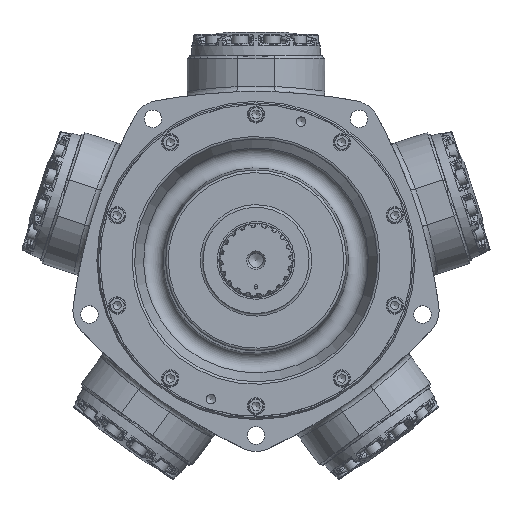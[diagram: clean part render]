
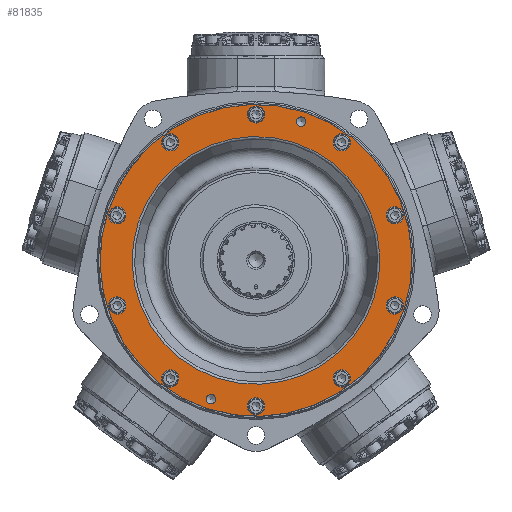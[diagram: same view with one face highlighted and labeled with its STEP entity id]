
A CAD part, top view. The second image highlights one B-rep face of the part: STEP entity #81835.
In plain terms, the highlighted planar face has unit normal (0, 0, 1).
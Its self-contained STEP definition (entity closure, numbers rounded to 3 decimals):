
#8797=FACE_BOUND('',#17384,.T.);
#8798=FACE_BOUND('',#17385,.T.);
#8799=FACE_BOUND('',#17386,.T.);
#8800=FACE_BOUND('',#17387,.T.);
#8801=FACE_BOUND('',#17388,.T.);
#8802=FACE_BOUND('',#17389,.T.);
#8803=FACE_BOUND('',#17390,.T.);
#8804=FACE_BOUND('',#17391,.T.);
#8805=FACE_BOUND('',#17392,.T.);
#8806=FACE_BOUND('',#17393,.T.);
#8807=FACE_BOUND('',#17394,.T.);
#8808=FACE_BOUND('',#17395,.T.);
#8809=FACE_BOUND('',#17396,.T.);
#12290=FACE_OUTER_BOUND('',#17383,.T.);
#17383=EDGE_LOOP('',(#64497));
#17384=EDGE_LOOP('',(#64498));
#17385=EDGE_LOOP('',(#64499));
#17386=EDGE_LOOP('',(#64500));
#17387=EDGE_LOOP('',(#64501));
#17388=EDGE_LOOP('',(#64502));
#17389=EDGE_LOOP('',(#64503));
#17390=EDGE_LOOP('',(#64504));
#17391=EDGE_LOOP('',(#64505));
#17392=EDGE_LOOP('',(#64506));
#17393=EDGE_LOOP('',(#64507));
#17394=EDGE_LOOP('',(#64508));
#17395=EDGE_LOOP('',(#64509));
#17396=EDGE_LOOP('',(#64510));
#21467=CIRCLE('',#88053,186.628);
#21469=CIRCLE('',#88057,5.664);
#21470=CIRCLE('',#88059,5.664);
#21472=CIRCLE('',#88062,10.319);
#21473=CIRCLE('',#88064,10.319);
#21475=CIRCLE('',#88067,10.319);
#21476=CIRCLE('',#88069,10.319);
#21478=CIRCLE('',#88072,10.319);
#21479=CIRCLE('',#88074,10.319);
#21480=CIRCLE('',#88076,10.319);
#21481=CIRCLE('',#88078,10.319);
#21483=CIRCLE('',#88081,10.319);
#21484=CIRCLE('',#88083,10.319);
#21485=CIRCLE('',#88085,148.273);
#34357=VERTEX_POINT('',#185072);
#34359=VERTEX_POINT('',#185080);
#34360=VERTEX_POINT('',#185084);
#34362=VERTEX_POINT('',#185090);
#34363=VERTEX_POINT('',#185094);
#34365=VERTEX_POINT('',#185100);
#34366=VERTEX_POINT('',#185104);
#34368=VERTEX_POINT('',#185110);
#34369=VERTEX_POINT('',#185114);
#34370=VERTEX_POINT('',#185118);
#34371=VERTEX_POINT('',#185122);
#34373=VERTEX_POINT('',#185128);
#34374=VERTEX_POINT('',#185132);
#34375=VERTEX_POINT('',#185136);
#44713=EDGE_CURVE('',#34357,#34357,#21467,.T.);
#44717=EDGE_CURVE('',#34359,#34359,#21469,.T.);
#44719=EDGE_CURVE('',#34360,#34360,#21470,.T.);
#44723=EDGE_CURVE('',#34362,#34362,#21472,.T.);
#44725=EDGE_CURVE('',#34363,#34363,#21473,.T.);
#44728=EDGE_CURVE('',#34365,#34365,#21475,.T.);
#44730=EDGE_CURVE('',#34366,#34366,#21476,.T.);
#44733=EDGE_CURVE('',#34368,#34368,#21478,.T.);
#44735=EDGE_CURVE('',#34369,#34369,#21479,.T.);
#44737=EDGE_CURVE('',#34370,#34370,#21480,.T.);
#44739=EDGE_CURVE('',#34371,#34371,#21481,.T.);
#44742=EDGE_CURVE('',#34373,#34373,#21483,.T.);
#44744=EDGE_CURVE('',#34374,#34374,#21484,.T.);
#44745=EDGE_CURVE('',#34375,#34375,#21485,.T.);
#64497=ORIENTED_EDGE('',*,*,#44713,.T.);
#64498=ORIENTED_EDGE('',*,*,#44717,.T.);
#64499=ORIENTED_EDGE('',*,*,#44719,.T.);
#64500=ORIENTED_EDGE('',*,*,#44723,.T.);
#64501=ORIENTED_EDGE('',*,*,#44725,.T.);
#64502=ORIENTED_EDGE('',*,*,#44728,.T.);
#64503=ORIENTED_EDGE('',*,*,#44730,.T.);
#64504=ORIENTED_EDGE('',*,*,#44733,.T.);
#64505=ORIENTED_EDGE('',*,*,#44735,.T.);
#64506=ORIENTED_EDGE('',*,*,#44737,.T.);
#64507=ORIENTED_EDGE('',*,*,#44739,.T.);
#64508=ORIENTED_EDGE('',*,*,#44742,.T.);
#64509=ORIENTED_EDGE('',*,*,#44744,.T.);
#64510=ORIENTED_EDGE('',*,*,#44745,.F.);
#72989=PLANE('',#88084);
#81835=ADVANCED_FACE('',(#12290,#8797,#8798,#8799,#8800,#8801,#8802,#8803,
#8804,#8805,#8806,#8807,#8808,#8809),#72989,.T.);
#88053=AXIS2_PLACEMENT_3D('',#185073,#101638,#101639);
#88057=AXIS2_PLACEMENT_3D('',#185081,#101648,#101649);
#88059=AXIS2_PLACEMENT_3D('',#185085,#101653,#101654);
#88062=AXIS2_PLACEMENT_3D('',#185092,#101661,#101662);
#88064=AXIS2_PLACEMENT_3D('',#185096,#101666,#101667);
#88067=AXIS2_PLACEMENT_3D('',#185102,#101673,#101674);
#88069=AXIS2_PLACEMENT_3D('',#185106,#101678,#101679);
#88072=AXIS2_PLACEMENT_3D('',#185112,#101685,#101686);
#88074=AXIS2_PLACEMENT_3D('',#185116,#101690,#101691);
#88076=AXIS2_PLACEMENT_3D('',#185120,#101695,#101696);
#88078=AXIS2_PLACEMENT_3D('',#185124,#101700,#101701);
#88081=AXIS2_PLACEMENT_3D('',#185130,#101707,#101708);
#88083=AXIS2_PLACEMENT_3D('',#185134,#101712,#101713);
#88084=AXIS2_PLACEMENT_3D('',#185135,#101714,#101715);
#88085=AXIS2_PLACEMENT_3D('',#185137,#101716,#101717);
#101638=DIRECTION('center_axis',(0.,0.,
1.));
#101639=DIRECTION('ref_axis',(0.309,0.951,0.));
#101648=DIRECTION('center_axis',(0.,0.,
-1.));
#101649=DIRECTION('ref_axis',(0.951,-0.309,0.));
#101653=DIRECTION('center_axis',(0.,0.,
-1.));
#101654=DIRECTION('ref_axis',(0.951,-0.309,0.));
#101661=DIRECTION('center_axis',(0.,0.,
-1.));
#101662=DIRECTION('ref_axis',(-0.588,0.809,0.));
#101666=DIRECTION('center_axis',(0.,0.,
-1.));
#101667=DIRECTION('ref_axis',(0.,1.,0.));
#101673=DIRECTION('center_axis',(0.,0.,
-1.));
#101674=DIRECTION('ref_axis',(0.588,0.809,0.));
#101678=DIRECTION('center_axis',(0.,0.,
-1.));
#101679=DIRECTION('ref_axis',(0.951,0.309,0.));
#101685=DIRECTION('center_axis',(0.,0.,
-1.));
#101686=DIRECTION('ref_axis',(0.951,-0.309,0.));
#101690=DIRECTION('center_axis',(0.,0.,
-1.));
#101691=DIRECTION('ref_axis',(0.588,-0.809,0.));
#101695=DIRECTION('center_axis',(0.,0.,
-1.));
#101696=DIRECTION('ref_axis',(0.,-1.,0.));
#101700=DIRECTION('center_axis',(0.,0.,
-1.));
#101701=DIRECTION('ref_axis',(-0.588,-0.809,0.));
#101707=DIRECTION('center_axis',(0.,0.,
-1.));
#101708=DIRECTION('ref_axis',(-0.951,-0.309,0.));
#101712=DIRECTION('center_axis',(0.,0.,
-1.));
#101713=DIRECTION('ref_axis',(-0.951,0.309,0.));
#101714=DIRECTION('center_axis',(0.,0.,
1.));
#101715=DIRECTION('ref_axis',(0.951,-0.309,0.));
#101716=DIRECTION('center_axis',(0.,0.,
1.));
#101717=DIRECTION('ref_axis',(-0.309,-0.951,0.));
#185072=CARTESIAN_POINT('',(-57.671,-177.493,119.254));
#185073=CARTESIAN_POINT('Origin',(0.,0.,
119.254));
#185080=CARTESIAN_POINT('',(48.575,167.829,119.254));
#185081=CARTESIAN_POINT('Origin',(53.962,166.078,119.254));
#185084=CARTESIAN_POINT('',(-59.349,-164.328,119.254));
#185085=CARTESIAN_POINT('Origin',(-53.962,-166.078,119.254));
#185090=CARTESIAN_POINT('',(108.707,-149.623,119.254));
#185092=CARTESIAN_POINT('Origin',(102.642,-141.275,119.254));
#185094=CARTESIAN_POINT('',(0.,-184.944,119.254));
#185096=CARTESIAN_POINT('Origin',(0.,-174.625,119.254));
#185100=CARTESIAN_POINT('',(-108.707,-149.623,119.254));
#185102=CARTESIAN_POINT('Origin',(-102.642,-141.275,119.254));
#185104=CARTESIAN_POINT('',(-175.892,-57.151,119.254));
#185106=CARTESIAN_POINT('Origin',(-166.078,-53.962,119.254));
#185110=CARTESIAN_POINT('',(-175.892,57.151,119.254));
#185112=CARTESIAN_POINT('Origin',(-166.078,53.962,119.254));
#185114=CARTESIAN_POINT('',(-108.707,149.623,119.254));
#185116=CARTESIAN_POINT('Origin',(-102.642,141.275,119.254));
#185118=CARTESIAN_POINT('',(0.,184.944,119.254));
#185120=CARTESIAN_POINT('Origin',(0.,174.625,119.254));
#185122=CARTESIAN_POINT('',(108.707,149.623,119.254));
#185124=CARTESIAN_POINT('Origin',(102.642,141.275,119.254));
#185128=CARTESIAN_POINT('',(175.892,57.151,119.254));
#185130=CARTESIAN_POINT('Origin',(166.078,53.962,119.254));
#185132=CARTESIAN_POINT('',(175.892,-57.151,119.254));
#185134=CARTESIAN_POINT('Origin',(166.078,-53.962,119.254));
#185135=CARTESIAN_POINT('Origin',(52.49,161.549,119.254));
#185136=CARTESIAN_POINT('',(-141.016,45.819,119.254));
#185137=CARTESIAN_POINT('Origin',(0.,0.,
119.254));
